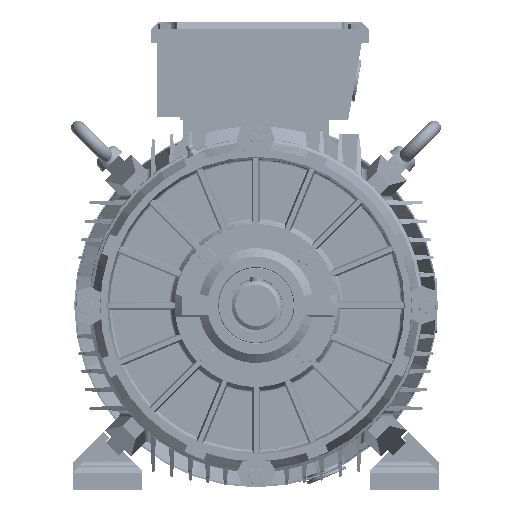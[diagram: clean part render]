
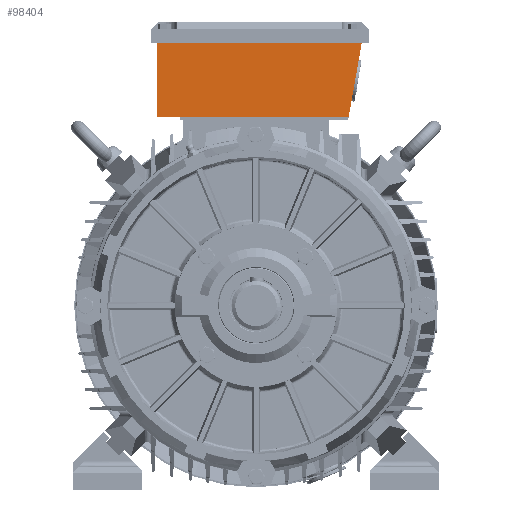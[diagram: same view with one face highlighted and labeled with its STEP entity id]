
A CAD part, left-side view. The second image highlights one B-rep face of the part: STEP entity #98404.
In plain terms, the highlighted planar face has unit normal (-1, 0, 0).
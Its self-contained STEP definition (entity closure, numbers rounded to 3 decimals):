
#8084 = ORIENTED_EDGE ( 'NONE', *, *, #123364, .F. ) ;
#9111 = CARTESIAN_POINT ( 'NONE',  ( -56.843, 107.864, 159.65 ) ) ;
#11505 = CARTESIAN_POINT ( 'NONE',  ( -56.843, 107.864, 223.65 ) ) ;
#16575 = AXIS2_PLACEMENT_3D ( 'NONE', #170149, #106098, #44626 ) ;
#16817 = CARTESIAN_POINT ( 'NONE',  ( -56.843, 107.864, 223.65 ) ) ;
#31742 = VECTOR ( 'NONE', #56835, 1000. ) ;
#36845 = ORIENTED_EDGE ( 'NONE', *, *, #229254, .T. ) ;
#43232 = CARTESIAN_POINT ( 'NONE',  ( -56.843, -68.121, 223.65 ) ) ;
#44626 = DIRECTION ( 'NONE',  ( 0., 0., 1. ) ) ;
#56835 = DIRECTION ( 'NONE',  ( 0., -0.174, 0.985 ) ) ;
#58716 = DIRECTION ( 'NONE',  ( 0., 0., 1. ) ) ;
#97550 = VECTOR ( 'NONE', #176558, 1000. ) ;
#98404 = ADVANCED_FACE ( 'NONE', ( #248028 ), #226188, .F. ) ;
#106098 = DIRECTION ( 'NONE',  ( 1., 0., 0. ) ) ;
#109553 = VECTOR ( 'NONE', #58716, 1000. ) ;
#117224 = VECTOR ( 'NONE', #133316, 1000. ) ;
#122713 = EDGE_CURVE ( 'NONE', #211401, #229584, #203764, .T. ) ;
#123364 = EDGE_CURVE ( 'NONE', #163576, #230194, #152408, .T. ) ;
#133316 = DIRECTION ( 'NONE',  ( 0., 1., 0. ) ) ;
#152408 = LINE ( 'NONE', #9111, #117224 ) ;
#162406 = LINE ( 'NONE', #245681, #109553 ) ;
#163576 = VERTEX_POINT ( 'NONE', #214676 ) ;
#170149 = CARTESIAN_POINT ( 'NONE',  ( -56.843, 107.864, 159.65 ) ) ;
#171891 = EDGE_LOOP ( 'NONE', ( #238849, #249949, #8084, #36845 ) ) ;
#176558 = DIRECTION ( 'NONE',  ( 0., 1., 0. ) ) ;
#191041 = EDGE_CURVE ( 'NONE', #230194, #229584, #162406, .T. ) ;
#202895 = CARTESIAN_POINT ( 'NONE',  ( -56.843, 107.864, 159.65 ) ) ;
#203764 = LINE ( 'NONE', #16817, #97550 ) ;
#211401 = VERTEX_POINT ( 'NONE', #43232 ) ;
#214676 = CARTESIAN_POINT ( 'NONE',  ( -56.843, -56.836, 159.65 ) ) ;
#226188 = PLANE ( 'NONE',  #16575 ) ;
#229254 = EDGE_CURVE ( 'NONE', #163576, #211401, #238401, .T. ) ;
#229584 = VERTEX_POINT ( 'NONE', #11505 ) ;
#230194 = VERTEX_POINT ( 'NONE', #202895 ) ;
#238401 = LINE ( 'NONE', #239748, #31742 ) ;
#238849 = ORIENTED_EDGE ( 'NONE', *, *, #122713, .T. ) ;
#239748 = CARTESIAN_POINT ( 'NONE',  ( -56.843, -51.87, 131.485 ) ) ;
#245681 = CARTESIAN_POINT ( 'NONE',  ( -56.843, 107.864, 159.65 ) ) ;
#248028 = FACE_OUTER_BOUND ( 'NONE', #171891, .T. ) ;
#249949 = ORIENTED_EDGE ( 'NONE', *, *, #191041, .F. ) ;
